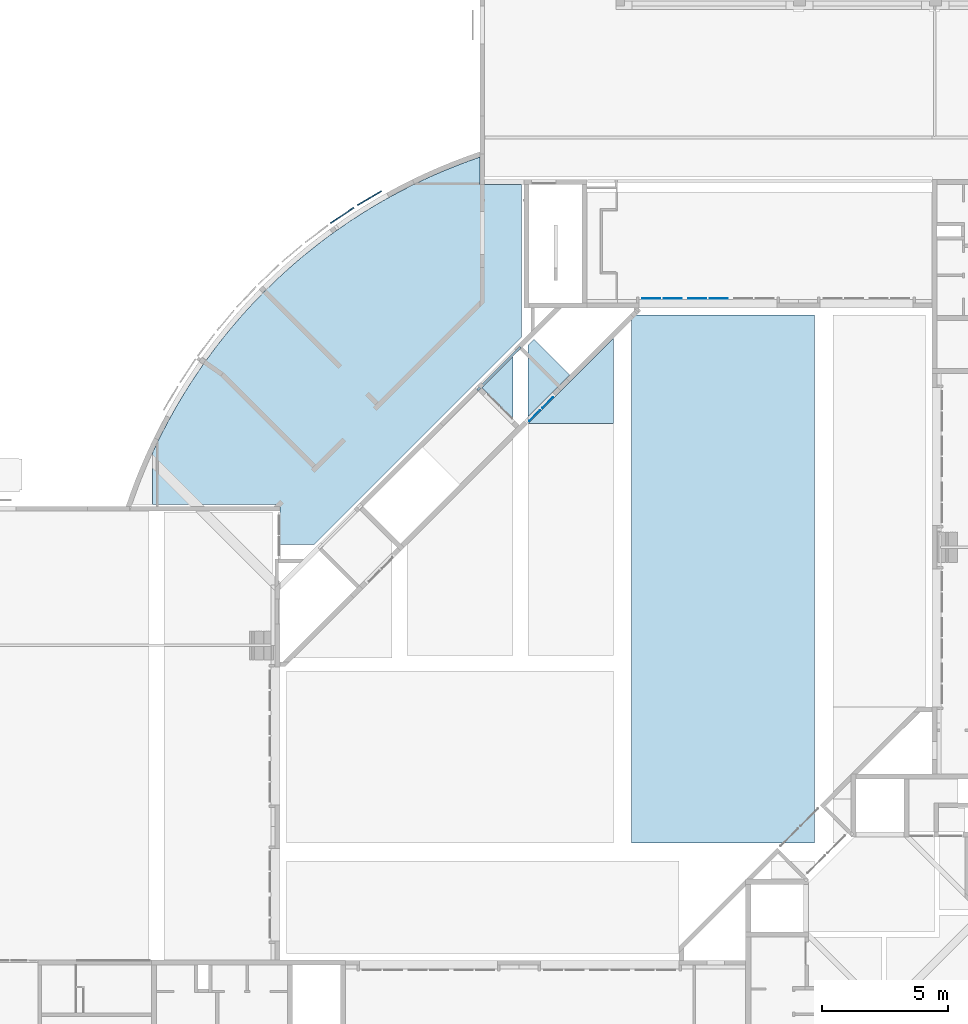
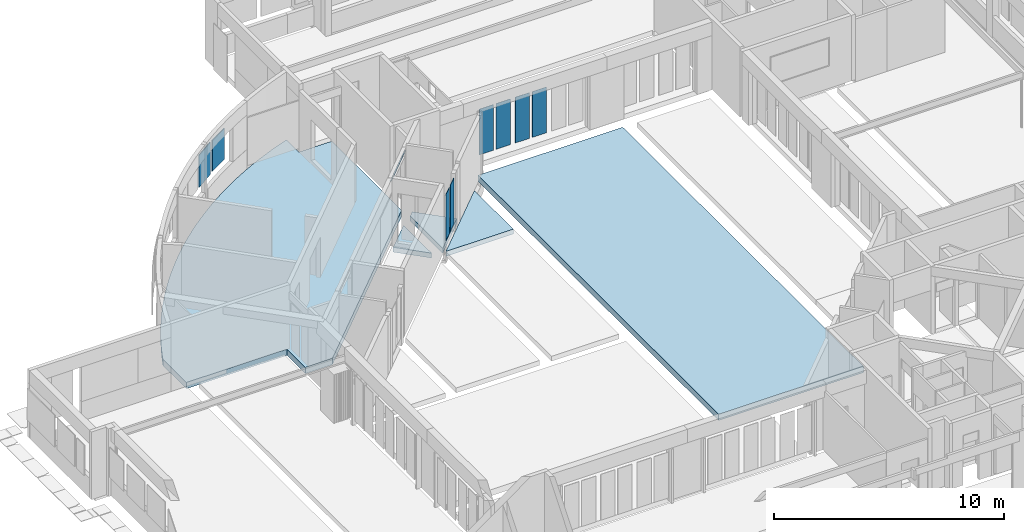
# One storey, part 9 of 30: 9 plates, 4 slabs, 1 element without a shape of its own.
"""IFC4X3_ADD2 building model written with IfcOpenShell, lengths in millimetres."""

from ifc_helpers import new_model, si_unit, point, direction, frame, frame_2d, origin_with_axes, origin_2d_with_axis, place, context, subcontext, project, spatial, polyline, circle_curve, trimmed, segment, composite_curve, rectangle, outline, extrude, source, transform, mapped, material, type_object, type_shapes, element, aggregate, save


model = new_model("IFC4X3_ADD2")

# Units and contexts
model_context = context("Model", 3, precision=1e-05, world=origin_with_axes(), true_north=direction((0.0, 1.0)))
body_context = subcontext(model_context, "Body", "Model", "MODEL_VIEW")
ifc_project = project(units=[si_unit("LENGTHUNIT", "METRE", prefix="MILLI"), si_unit("AREAUNIT", "SQUARE_METRE"), si_unit("VOLUMEUNIT", "CUBIC_METRE"), si_unit("PLANEANGLEUNIT", "RADIAN"), si_unit("TIMEUNIT", "SECOND"), si_unit("MASSUNIT", "GRAM")], contexts=[model_context])

# Site, building, storey
site_placement = place(None, origin_with_axes())
site = spatial("IfcSite", under=ifc_project, at=site_placement, Name="Site", CompositionType="ELEMENT")
building_placement = place(site_placement, origin_with_axes())
building = spatial("IfcBuilding", under=site, at=building_placement, Name="IFC Building Story")
storey_placement = place(building_placement, origin_with_axes())
storey = spatial("IfcBuildingStorey", under=building, at=storey_placement, Name="000", Elevation=0.0)

# Slab
ifc_material_1 = material(Name="BB_Beton_Bestaand")
slab_type_1 = type_object("IfcSlabType", Name="Floor_BB_XX_Vloer uit beton_ 260 mm", PredefinedType="NOTDEFINED")
shared_shape_1 = source(origin_with_axes(), body_context, "Body", "SweptSolid", [
    extrude(outline(polyline([(2032.696320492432, -681.8997455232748), (-1357.303679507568, -681.8997455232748), (-1357.303679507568, -668.8817721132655), (-1350.785281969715, -675.4001696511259), (2032.696320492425, 2708.081432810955), (2032.696320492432, -681.8997455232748)])), frame((-27392.6963204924, 34692.18396188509, -660.0), z_axis=(0.0, 0.0, 1.0), x_axis=(1.0, 0.0, 0.0)), (0.0, 0.0, 1.0), 260.0),
    extrude(outline(polyline([(-235.1287453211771, 1185.386235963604), (1185.386235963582, -235.1287453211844), (-475.1287453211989, -1895.643726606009), (-475.1287453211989, 945.3862359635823), (-235.1287453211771, 1185.386235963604)])), frame((-28274.8712546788, 36174.609698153, -660.0), z_axis=(0.0, 0.0, 1.0), x_axis=(1.0, 0.0, 0.0)), (0.0, 0.0, 1.0), 260.0),
])
type_shapes(slab_type_1, [shared_shape_1])
slab_1_placement = place(storey_placement, origin_with_axes())
element("IfcSlab", 1, at=slab_1_placement, inside=storey, type_object=slab_type_1, material=ifc_material_1, Name="Floor:BB_XX_Vloer uit beton, 260 mm", ObjectType="Floor:BB_XX_Vloer uit beton, 260 mm", PredefinedType="FLOOR", context=body_context, shape_type="MappedRepresentation", body=[
    mapped(shared_shape_1, transform((0.0, 0.0, 0.0))),
])

# Plates
ifc_material_2 = material(Name="BB_Glas")
shared_shape_2 = source(origin_with_axes(), body_context, "Body", "SweptSolid", [
    extrude(rectangle(XDim=1718.000000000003, YDim=1108.000000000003, at=frame_2d((0.0, 0.0), x_axis=(0.0, 1.0))), frame((0.0, 0.0, -44.0), z_axis=(0.0, 0.0, 1.0), x_axis=(1.0, 0.0, 0.0)), (0.0, 0.0, 1.0), 44.0),
])
plate_1_placement = place(storey_placement, frame((-36139.5142251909, 42295.3484664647, 1784.0), z_axis=(-0.5591648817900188, 0.8290564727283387, 0.0), x_axis=(-0.8290564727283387, -0.5591648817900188, 0.0)))
element("IfcPlate", 2, at=plate_1_placement, inside=storey, material=ifc_material_2, Name="BB_07.06_Buitenbeglazing, rechthoekig_GMO:07.06.72#02_Drievoudige beglazing, 44 mm, A/A*/P4A RC2, -1 en +0", ObjectType="BB_07.06_Buitenbeglazing, rechthoekig_GMO:07.06.72#02_Drievoudige beglazing, 44 mm, A/A*/P4A RC2, -1 en +0", PredefinedType="USERDEFINED", context=body_context, shape_type="MappedRepresentation", body=[
    mapped(shared_shape_2, transform((0.0, 0.0, 0.0))),
])
shared_shape_3 = source(origin_with_axes(), body_context, "Body", "SweptSolid", [
    extrude(rectangle(XDim=1640.000000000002, YDim=1096.000000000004, at=frame_2d((0.0, 0.0), x_axis=(0.0, 1.0))), frame((0.0, 0.0, -44.0), z_axis=(0.0, 0.0, 1.0), x_axis=(1.0, 0.0, 0.0)), (0.0, 0.0, 1.0), 44.0),
])
plate_2_placement = place(storey_placement, frame((-35052.9452503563, 42983.1140551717, 1784.0), z_axis=(-0.5114280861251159, 0.8593260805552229, 0.0), x_axis=(0.8593260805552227, 0.5114280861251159, 0.0)))
element("IfcPlate", 3, at=plate_2_placement, inside=storey, material=ifc_material_2, Name="BB_07.06_Buitenbeglazing, rechthoekig_GMO:07.06.72#02_Drievoudige beglazing, 44 mm, A/A*/P4A RC2, -1 en +0", ObjectType="BB_07.06_Buitenbeglazing, rechthoekig_GMO:07.06.72#02_Drievoudige beglazing, 44 mm, A/A*/P4A RC2, -1 en +0", PredefinedType="USERDEFINED", context=body_context, shape_type="MappedRepresentation", body=[
    mapped(shared_shape_3, transform((0.0, 0.0, 0.0))),
])
shared_shape_4 = source(origin_with_axes(), body_context, "Body", "SweptSolid", [
    extrude(rectangle(XDim=2433.0, YDim=713.500000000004, at=frame_2d((0.0, 0.0), x_axis=(0.0, 1.0))), frame((0.0, 0.0, -17.0), z_axis=(0.0, 0.0, 1.0), x_axis=(1.0, 0.0, 0.0)), (0.0, 0.0, 1.0), 17.0),
])
for number, where, z_axis, x_axis in (
    (4, (-21172.7499999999, 38978.5000000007, 1344.0), (0.0, -1.0, 0.0), (-1.0, 0.0, 0.0)),
    (5, (-22027.2499999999, 38978.5000000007, 1344.0), (0.0, -1.0, 0.0), (-1.0, 0.0, 0.0)),
    (6, (-22992.7499999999, 38978.5000000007, 1344.0), (0.0, -1.0, 0.0), (-1.0, 0.0, 0.0)),
    (7, (-23847.2499999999, 38978.5000000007, 1344.0), (0.0, -1.0, 0.0), (-1.0, 0.0, 0.0)),
):
    element("IfcPlate", number, at=place(storey_placement, frame(where, z_axis=z_axis, x_axis=x_axis)), inside=storey, material=ifc_material_2, Name="BB_10.10_Binnenbeglazing, rechthoekig_GMO:10.10.32#02_Enkelvoudige beglazing, 2B2, 40dB", ObjectType="BB_10.10_Binnenbeglazing, rechthoekig_GMO:10.10.32#02_Enkelvoudige beglazing, 2B2, 40dB", PredefinedType="USERDEFINED", context=body_context, shape_type="MappedRepresentation", body=[
        mapped(shared_shape_4, transform((0.0, 0.0, 0.0))),
    ])
shared_shape_5 = source(origin_with_axes(), body_context, "Body", "SweptSolid", [
    extrude(rectangle(XDim=2455.0, YDim=600.500000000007, at=frame_2d((0.0, 0.0), x_axis=(0.0, 1.0))), frame((0.0, 0.0, -20.0), z_axis=(0.0, 0.0, 1.0), x_axis=(1.0, 0.0, 0.0)), (0.0, 0.0, 1.0), 20.0),
])
for number, where, z_axis, x_axis, name in (
    (8, (-27972.7618955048, 34853.9715366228, 1307.50000000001), (-0.7071067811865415, 0.7071067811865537, 0.0), (-0.7071067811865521, -0.707106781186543, 0.0), "BB_07.06_Buitenbeglazing, rechthoekig_GMO:Enkel gelaagd, 20 mm"),
    (9, (-28490.0105059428, 34336.7229261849, 1307.49999999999), (-0.7071067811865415, 0.7071067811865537, 0.0), (-0.7071067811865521, -0.707106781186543, 0.0), "BB_07.06_Buitenbeglazing, rechthoekig_GMO:Enkel gelaagd, 20 mm"),
):
    element("IfcPlate", number, at=place(storey_placement, frame(where, z_axis=z_axis, x_axis=x_axis)), inside=storey, material=ifc_material_2, Name=name, ObjectType="BB_07.06_Buitenbeglazing, rechthoekig_GMO:Enkel gelaagd, 20 mm", PredefinedType="USERDEFINED", context=body_context, shape_type="MappedRepresentation", body=[
        mapped(shared_shape_5, transform((0.0, 0.0, 0.0))),
    ])

# Slabs
slab_type_2 = type_object("IfcSlabType", Name="BB_Beton_Bestaand 260", PredefinedType="FLOOR", material=ifc_material_1)
slab_2_placement = place(storey_placement, frame((-30577.58532236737, 36662.99423148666, -660.0), z_axis=(0.0, 0.0, 1.0), x_axis=(0.0, -1.0, 0.0)))
element("IfcSlab", 10, at=slab_2_placement, inside=storey, type_object=slab_type_2, Name="Floor:BB_XX_Vloer welfsels, 260 mm", ObjectType="Floor:BB_XX_Vloer welfsels, 260 mm", PredefinedType="FLOOR", context=body_context, shape_type="SweptSolid", body=[
    extrude(outline(polyline([(1227.585322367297, 409.1951074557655), (0.0, -818.3902149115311), (-1227.585322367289, 409.1951074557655), (1227.585322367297, 409.1951074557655)])), frame((1227.585322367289, 818.3902149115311, 0.0), z_axis=(0.0, 0.0, 1.0), x_axis=(1.0, 0.0, 0.0)), (0.0, 0.0, 1.0), 260.0),
])
slab_type_3 = type_object("IfcSlabType", Name="BB_Beton_Bestaand 330", PredefinedType="FLOOR", material=ifc_material_1)
slab_3_placement = place(storey_placement, frame((-24639.99999999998, 38329.9959341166, -730.0), z_axis=(0.0, 0.0, 1.0), x_axis=(0.0, -1.0, 0.0)))
element("IfcSlab", 11, at=slab_3_placement, inside=storey, type_object=slab_type_3, Name="Floor:BB_XX_Vloer welfsels, 330 mm", ObjectType="Floor:BB_XX_Vloer welfsels, 330 mm", PredefinedType="FLOOR", context=body_context, shape_type="SweptSolid", body=[
    extrude(rectangle(XDim=20969.995934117, YDim=7279.999999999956, at=frame_2d((0.0, 0.0), x_axis=(-1.0, 0.0))), frame((10484.9979670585, 3639.999999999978, 0.0), z_axis=(0.0, 0.0, 1.0), x_axis=(1.0, 0.0, 0.0)), (0.0, 0.0, 1.0), 330.0),
])
slab_4_placement = place(storey_placement, frame((-31985.74856963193, 46485.74856963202, -530.0), z_axis=(0.0, 0.0, 1.0), x_axis=(-0.7071067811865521, -0.707106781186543, 0.0)))
element("IfcSlab", 12, at=slab_4_placement, inside=storey, type_object=slab_type_3, Name="Floor:BB_XX_Vloer welfsels, 330 mm", ObjectType="Floor:BB_XX_Vloer welfsels, 330 mm", PredefinedType="FLOOR", context=body_context, shape_type="SweptSolid", body=[
    extrude(outline(composite_curve([segment(polyline([(5588.290104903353, -15742.50795155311), (9167.717206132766, -19321.93505278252)]), True, "CONTINUOUS"), segment(polyline([(9167.717206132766, -19321.93505278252), (7719.693583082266, -20769.95867583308)]), True, "CONTINUOUS"), segment(trimmed(circle_curve(origin_2d_with_axis(), 22158.17800299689), [point((7719.693583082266, -20769.95867583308))], [point((-9780.755493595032, -19882.69786490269))], False, "CARTESIAN"), True, "CONTINUOUS"), segment(polyline([(-9780.755493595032, -19882.69786490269), (-9007.546767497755, -19109.4891388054)]), True, "CONTINUOUS"), segment(polyline([(-9007.546767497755, -19109.4891388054), (-10181.34402431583, -17935.69188198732)]), True, "CONTINUOUS"), segment(polyline([(-10181.34402431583, -17935.69188198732), (-5894.33825580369, -13648.68611347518)]), True, "CONTINUOUS"), segment(polyline([(-5894.33825580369, -13648.68611347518), (5754.90414910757, -13648.68611347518)]), True, "CONTINUOUS"), segment(polyline([(5754.90414910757, -13648.68611347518), (6718.508046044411, -14612.29001041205)]), True, "CONTINUOUS"), segment(polyline([(6718.508046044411, -14612.29001041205), (5588.290104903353, -15742.50795155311)]), True, "CONTINUOUS")], self_intersect=False)), frame((10181.34402431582, 22158.17800299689, 0.0), z_axis=(0.0, 0.0, 1.0), x_axis=(1.0, 0.0, 0.0)), (0.0, 0.0, 1.0), 330.0),
])

# Assembly, plate
assembly_placement = place(storey_placement, origin_with_axes())
assembly = element("IfcElementAssembly", 13, at=assembly_placement, inside=storey, Name="Structural Connections Assembly:IPE360 + plaat", ObjectType="Structural Connections Assembly:IPE360 + plaat", AssemblyPlace="NOTDEFINED", PredefinedType="USERDEFINED")
ifc_material_3 = material(Name="BB_Schrijnwerk_Aluminium")
shared_shape_6 = source(origin_with_axes(), body_context, "Body", "SweptSolid", [
    extrude(rectangle(XDim=2419.99999999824, YDim=65.00000000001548, at=frame_2d((0.0, 0.0), x_axis=(0.7071067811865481, 0.7071067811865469))), frame((878.580175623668, 878.5801756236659, 0.0), z_axis=(0.0, 0.0, 1.0), x_axis=(1.0, 0.0, 0.0)), (0.0, 0.0, 1.0), 9.99999999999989),
])
plate_3_placement = place(assembly_placement, frame((-30785.1211626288, 35314.1400961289, 3239.50000000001), z_axis=(0.0, 0.0, 1.0), x_axis=(1.0, 0.0, 0.0)))
plate_3 = element("IfcPlate", 14, at=plate_3_placement, material=ifc_material_3, Name="plate:plate", ObjectType="plate:plate", PredefinedType="USERDEFINED", context=body_context, shape_type="MappedRepresentation", body=[
    mapped(shared_shape_6, transform((0.0, 0.0, 0.0))),
])
aggregate(assembly, [plate_3])

save(model, "model.ifc")
